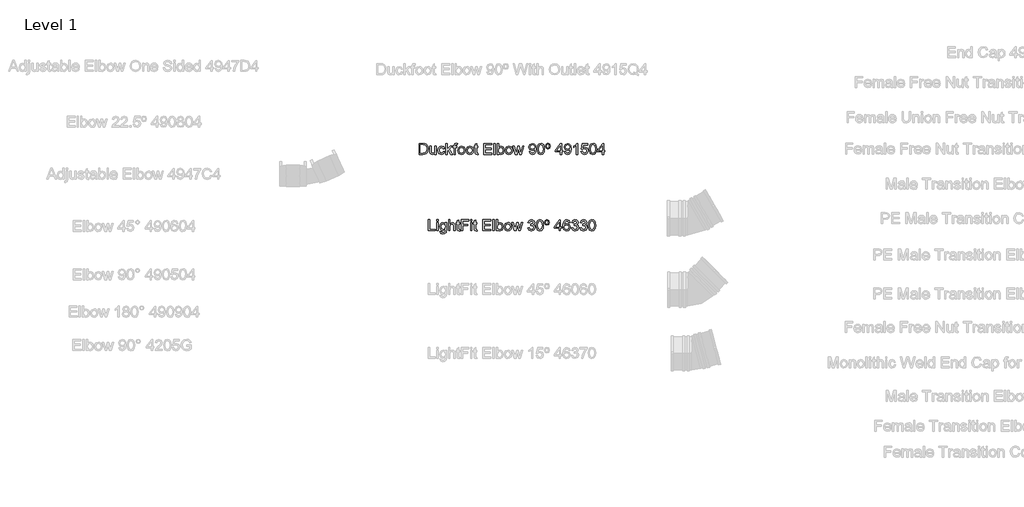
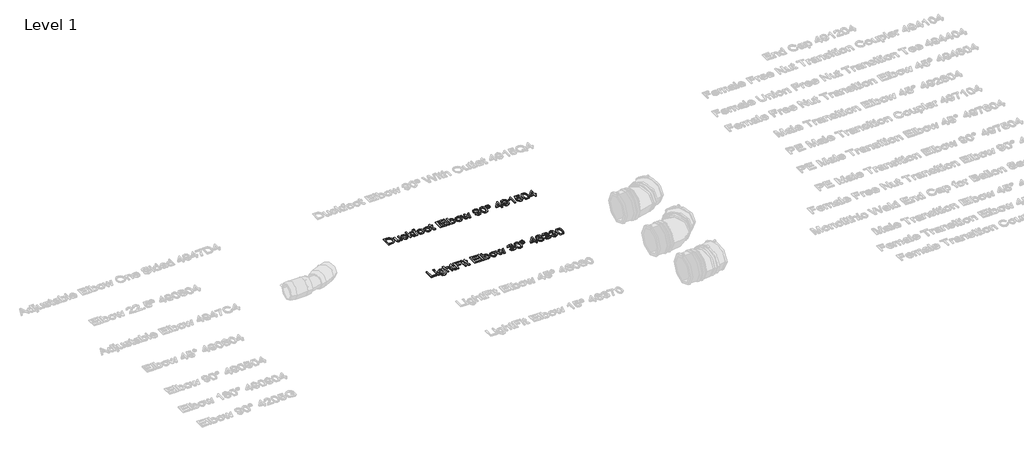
# One storey, part 19 of 41: 2 proxies.
"""IFC4 building model written with IfcOpenShell, lengths in millimetres."""

from ifc_helpers import new_model, si_unit, origin, origin_with_axes, place, context, project, spatial, polyline, outline, extrude, element, save

model = new_model("IFC4")

# Units and contexts
model_context = context("Model", 3, world=origin())
ifc_project = project(units=[si_unit("LENGTHUNIT", "METRE", prefix="MILLI")], contexts=[model_context])

# Site, building, storey
site = spatial("IfcSite", under=ifc_project)
building = spatial("IfcBuilding", under=site)
storey = spatial("IfcBuildingStorey", under=building, Name="Level 1", Elevation=0.0)

# Proxies
placement = place(None, origin())
element("IfcBuildingElementProxy", 1, Name="100 mm Arial", ObjectType="100 mm Arial", at=placement, inside=storey, context=model_context, shape_type="SweptSolid", body=[
    extrude(outline(polyline([(13189.6125419, 4561.9520671), (13189.6125419, 4621.0289902), (13209.9923496, 4621.0289902), (13220.5356188, 4620.1780287), (13229.2183111, 4615.9520671), (13236.2135034, 4605.8559133), (13238.5356188, 4591.8078364), (13236.9635034, 4579.8871633), (13232.9250419, 4571.2837979), (13227.5308111, 4565.9256248), (13220.470715, 4562.9616825), (13210.9731188, 4561.9520671), (13189.6125419, 4561.9520671)]), holes=[polyline([(13196.9971573, 4569.3366825), (13210.064465, 4569.3366825), (13219.5692727, 4570.4039902), (13225.0500419, 4573.4184133), (13229.5428304, 4580.7525479), (13231.1510034, 4591.923221), (13227.9995611, 4605.9136056), (13220.3336957, 4612.4616825), (13209.8625419, 4613.6443748), (13196.9971573, 4613.6443748), (13196.9971573, 4569.3366825)])]), origin_with_axes(), (0.0, 0.0, 1.0), 5.0),
    extrude(outline(polyline([(13275.4586957, 4561.9520671), (13275.4586957, 4569.4087979), (13269.6750419, 4563.1239421), (13262.1317727, 4561.0289902), (13255.1870611, 4562.500144), (13250.3985996, 4566.1924517), (13248.1990804, 4571.6299517), (13247.766388, 4578.4953364), (13247.766388, 4605.3366825), (13255.1510034, 4605.3366825), (13255.1510034, 4581.9712979), (13255.5981188, 4574.4424517), (13258.5187919, 4570.0217787), (13264.0211957, 4568.4136056), (13270.1870611, 4570.0578364), (13274.2615804, 4574.5362017), (13275.4586957, 4582.7645671), (13275.4586957, 4605.3366825), (13282.8433111, 4605.3366825), (13282.8433111, 4561.9520671), (13275.4586957, 4561.9520671)])), origin_with_axes(), (0.0, 0.0, 1.0), 5.0),
    extrude(outline(polyline([(13320.689465, 4577.6443748), (13328.0740804, 4576.7212979), (13322.1461957, 4565.1900479), (13310.4346573, 4561.0289902), (13302.579489, 4562.4803123), (13296.4370611, 4566.8342787), (13292.4725179, 4573.8997835), (13291.1510034, 4583.485721), (13293.408215, 4595.7525479), (13300.2880227, 4603.6347594), (13310.3336957, 4606.2597594), (13321.5620611, 4602.6539902), (13327.1510034, 4592.4136056), (13319.766388, 4591.4905287), (13316.3409073, 4597.0217787), (13310.391388, 4598.875144), (13301.8312919, 4595.2261056), (13298.5356188, 4583.687644), (13301.7591765, 4572.0410094), (13310.189465, 4568.4136056), (13317.1485996, 4570.6780287), (13320.689465, 4577.6443748)])), origin_with_axes(), (0.0, 0.0, 1.0), 5.0),
    extrude(outline(polyline([(13334.5356188, 4561.9520671), (13334.5356188, 4621.0289902), (13341.9202342, 4621.0289902), (13341.9202342, 4589.2837979), (13358.4779265, 4605.3366825), (13368.689465, 4605.3366825), (13351.9298496, 4589.0818748), (13369.6125419, 4561.9520671), (13360.9875419, 4561.9520671), (13346.6365804, 4583.9472594), (13341.9202342, 4579.375144), (13341.9202342, 4561.9520671), (13334.5356188, 4561.9520671)])), origin_with_axes(), (0.0, 0.0, 1.0), 5.0),
    extrude(outline(polyline([(13377.9202342, 4561.9520671), (13377.9202342, 4597.9520671), (13371.4586957, 4597.9520671), (13371.4586957, 4605.3366825), (13377.9202342, 4605.3366825), (13377.9202342, 4609.7068748), (13378.6990804, 4615.8655287), (13382.4779265, 4620.2645671), (13389.9202342, 4621.9520671), (13396.6558111, 4621.1443748), (13395.5740804, 4614.2212979), (13391.3192727, 4614.5674517), (13386.6678304, 4613.3414902), (13385.3048496, 4608.7693748), (13385.3048496, 4605.3366825), (13393.6125419, 4605.3366825), (13393.6125419, 4597.9520671), (13385.3048496, 4597.9520671), (13385.3048496, 4561.9520671), (13377.9202342, 4561.9520671)])), origin_with_axes(), (0.0, 0.0, 1.0), 5.0),
    extrude(outline(polyline([(13398.2279265, 4583.6443748), (13399.8252823, 4594.1047114), (13404.6173496, 4601.4568748), (13417.626965, 4606.2597594), (13425.3847775, 4604.79762), (13431.5812919, 4600.4112017), (13435.6431909, 4593.4466585), (13436.9971573, 4584.250144), (13434.6029265, 4571.110721), (13427.6293688, 4563.6756248), (13417.626965, 4561.0289902), (13409.7754025, 4562.485721), (13403.5860996, 4566.8559133), (13399.5674698, 4573.9664902), (13398.2279265, 4583.6443748)]), holes=[polyline([(13405.6125419, 4583.6587979), (13409.0308111, 4572.2140864), (13417.626965, 4568.4136056), (13426.1942727, 4572.235721), (13429.6125419, 4583.8895671), (13426.172638, 4595.0746633), (13417.626965, 4598.875144), (13409.0308111, 4595.0890864), (13405.6125419, 4583.6587979)])]), origin_with_axes(), (0.0, 0.0, 1.0), 5.0),
    extrude(outline(polyline([(13443.4586957, 4583.6443748), (13445.0560515, 4594.1047114), (13449.8481188, 4601.4568748), (13462.8577342, 4606.2597594), (13470.6155467, 4604.79762), (13476.8120611, 4600.4112017), (13480.8739602, 4593.4466585), (13482.2279265, 4584.250144), (13479.8336957, 4571.110721), (13472.860138, 4563.6756248), (13462.8577342, 4561.0289902), (13455.0061717, 4562.485721), (13448.8168688, 4566.8559133), (13444.798239, 4573.9664902), (13443.4586957, 4583.6443748)]), holes=[polyline([(13450.8433111, 4583.6587979), (13454.2615804, 4572.2140864), (13462.8577342, 4568.4136056), (13471.4250419, 4572.235721), (13474.8433111, 4583.8895671), (13471.4034073, 4595.0746633), (13462.8577342, 4598.875144), (13454.2615804, 4595.0890864), (13450.8433111, 4583.6587979)])]), origin_with_axes(), (0.0, 0.0, 1.0), 5.0),
    extrude(outline(polyline([(13506.2279265, 4568.110721), (13507.1510034, 4561.735721), (13501.626965, 4561.0289902), (13495.439465, 4562.2549517), (13492.3529265, 4565.4712979), (13491.4586957, 4573.8511056), (13491.4586957, 4597.9520671), (13485.9202342, 4597.9520671), (13485.9202342, 4605.3366825), (13491.4586957, 4605.3366825), (13491.4586957, 4615.8799517), (13498.8433111, 4620.2212979), (13498.8433111, 4605.3366825), (13506.2279265, 4605.3366825), (13506.2279265, 4597.9520671), (13498.8433111, 4597.9520671), (13498.8433111, 4574.0674517), (13499.2327342, 4570.2597594), (13500.4947534, 4568.9112017), (13503.0115804, 4568.4136056), (13506.2279265, 4568.110721)])), origin_with_axes(), (0.0, 0.0, 1.0), 5.0),
    extrude(outline(polyline([(13537.6125419, 4561.9520671), (13537.6125419, 4621.0289902), (13580.0740804, 4621.0289902), (13580.0740804, 4613.6443748), (13544.9971573, 4613.6443748), (13544.9971573, 4596.1059133), (13578.2279265, 4596.1059133), (13578.2279265, 4588.7212979), (13544.9971573, 4588.7212979), (13544.9971573, 4569.3366825), (13580.9971573, 4569.3366825), (13580.9971573, 4561.9520671), (13537.6125419, 4561.9520671)])), origin_with_axes(), (0.0, 0.0, 1.0), 5.0),
    extrude(outline(polyline([(13591.1510034, 4561.9520671), (13591.1510034, 4621.0289902), (13598.5356188, 4621.0289902), (13598.5356188, 4561.9520671), (13591.1510034, 4561.9520671)])), origin_with_axes(), (0.0, 0.0, 1.0), 5.0),
    extrude(outline(polyline([(13616.9971573, 4561.9520671), (13609.6125419, 4561.9520671), (13609.6125419, 4621.0289902), (13616.9971573, 4621.0289902), (13616.9971573, 4599.1203364), (13622.1678304, 4604.4749037), (13628.5933111, 4606.2597594), (13635.9923496, 4604.6515864), (13641.7327342, 4600.1299517), (13645.2591765, 4593.0987017), (13646.5356188, 4584.2934133), (13645.2141044, 4574.4352402), (13641.2495611, 4567.1011056), (13635.4316525, 4562.547019), (13628.5500419, 4561.0289902), (13621.9839361, 4562.9869229), (13616.9971573, 4568.860721), (13616.9971573, 4561.9520671)]), holes=[polyline([(13616.9971573, 4583.9472594), (13619.016388, 4573.6203364), (13627.9154265, 4568.4136056), (13635.8192727, 4572.250144), (13639.1510034, 4583.687644), (13635.9562919, 4595.1684133), (13628.2327342, 4598.875144), (13620.328888, 4595.0386056), (13616.9971573, 4583.9472594)])]), origin_with_axes(), (0.0, 0.0, 1.0), 5.0),
    extrude(outline(polyline([(13652.9971573, 4583.6443748), (13654.594513, 4594.1047114), (13659.3865804, 4601.4568748), (13672.3961957, 4606.2597594), (13680.1540082, 4604.79762), (13686.3505227, 4600.4112017), (13690.4124217, 4593.4466585), (13691.766388, 4584.250144), (13689.3721573, 4571.110721), (13682.3985996, 4563.6756248), (13672.3961957, 4561.0289902), (13664.5446332, 4562.485721), (13658.3553304, 4566.8559133), (13654.3367005, 4573.9664902), (13652.9971573, 4583.6443748)]), holes=[polyline([(13660.3817727, 4583.6587979), (13663.8000419, 4572.2140864), (13672.3961957, 4568.4136056), (13680.9635034, 4572.235721), (13684.3817727, 4583.8895671), (13680.9418688, 4595.0746633), (13672.3961957, 4598.875144), (13663.8000419, 4595.0890864), (13660.3817727, 4583.6587979)])]), origin_with_axes(), (0.0, 0.0, 1.0), 5.0),
    extrude(outline(polyline([(13707.2711957, 4561.9520671), (13694.0740804, 4605.3366825), (13701.7471573, 4605.3366825), (13709.2327342, 4580.0241825), (13711.4683111, 4570.9809133), (13713.3000419, 4579.6924517), (13719.2567727, 4605.3366825), (13728.0548496, 4605.3366825), (13733.9827342, 4579.7645671), (13735.6125419, 4571.875144), (13737.9490804, 4580.1972594), (13745.4490804, 4605.3366825), (13753.1510034, 4605.3366825), (13739.8529265, 4561.9520671), (13730.9250419, 4561.9520671), (13725.2567727, 4587.3943748), (13723.6125419, 4595.3270671), (13716.3000419, 4561.9520671), (13707.2711957, 4561.9520671)])), origin_with_axes(), (0.0, 0.0, 1.0), 5.0),
    extrude(outline(polyline([(13780.3817727, 4576.7212979), (13787.766388, 4577.6443748), (13791.0836957, 4570.5987017), (13797.3721573, 4568.4136056), (13803.3505227, 4569.8198556), (13807.4034073, 4573.5770671), (13809.8192727, 4579.9953364), (13810.8865804, 4588.562644), (13804.9370611, 4584.4087979), (13796.8385034, 4582.2597594), (13784.4995611, 4587.5097594), (13779.4586957, 4601.3414902), (13784.7447534, 4615.6203364), (13797.9923496, 4621.0289902), (13808.5139842, 4617.9424517), (13815.7543688, 4609.1443748), (13818.2279265, 4592.6155287), (13815.7615804, 4574.6804325), (13808.4274457, 4564.5193748), (13797.0260034, 4561.0289902), (13785.6750419, 4565.1467787), (13780.3817727, 4576.7212979)]), holes=[polyline([(13810.8433111, 4601.5145671), (13807.6558111, 4610.3703364), (13799.189465, 4613.6443748), (13790.3048496, 4610.1179325), (13786.8433111, 4600.9809133), (13790.1173496, 4592.7958171), (13798.9875419, 4589.6443748), (13807.5043688, 4592.7958171), (13810.8433111, 4601.5145671)])]), origin_with_axes(), (0.0, 0.0, 1.0), 5.0),
    extrude(outline(polyline([(13824.689465, 4591.0145671), (13826.860138, 4608.0121633), (13833.3072534, 4617.812644), (13844.0740804, 4621.0289902), (13852.6990804, 4619.125144), (13858.6558111, 4613.6371633), (13862.1173496, 4604.8967787), (13863.4586957, 4591.0145671), (13861.3096573, 4574.0890864), (13854.8841765, 4564.266971), (13844.0740804, 4561.0289902), (13836.4010034, 4562.4352402), (13830.5740804, 4566.6539902), (13826.1606188, 4576.6455767), (13824.689465, 4591.0145671)]), holes=[polyline([(13832.0740804, 4591.0289902), (13835.5356188, 4572.6900479), (13844.0740804, 4568.4136056), (13852.6125419, 4572.704471), (13856.0740804, 4591.0289902), (13852.7279265, 4609.1587979), (13843.9875419, 4613.6443748), (13835.6510034, 4609.6924517), (13832.0740804, 4591.0289902)])]), origin_with_axes(), (0.0, 0.0, 1.0), 5.0),
    extrude(outline(polyline([(13881.4586957, 4621.9520671), (13891.1077342, 4617.8991825), (13894.8433111, 4606.7068748), (13891.0860996, 4595.5434133), (13881.501965, 4591.4905287), (13871.8312919, 4595.4640864), (13868.0740804, 4606.5337979), (13871.8096573, 4617.8991825), (13881.4586957, 4621.9520671)]), holes=[polyline([(13881.4586957, 4616.4136056), (13877.110138, 4614.141971), (13875.4586957, 4606.7212979), (13877.1389842, 4599.3655287), (13881.4586957, 4597.0289902), (13885.7928304, 4599.3655287), (13887.4586957, 4606.923221), (13885.7784073, 4614.0987017), (13881.4586957, 4616.4136056)])]), origin_with_axes(), (0.0, 0.0, 1.0), 5.0),
    extrude(outline(polyline([(13947.4586957, 4561.9520671), (13947.4586957, 4575.798221), (13920.689465, 4575.798221), (13920.689465, 4583.1828364), (13949.3048496, 4620.1059133), (13954.8433111, 4620.1059133), (13954.8433111, 4583.1828364), (13962.2279265, 4583.1828364), (13962.2279265, 4575.798221), (13954.8433111, 4575.798221), (13954.8433111, 4561.9520671), (13947.4586957, 4561.9520671)]), holes=[polyline([(13947.4586957, 4583.1828364), (13947.4586957, 4606.000144), (13929.7760034, 4583.1828364), (13947.4586957, 4583.1828364)])]), origin_with_axes(), (0.0, 0.0, 1.0), 5.0),
    extrude(outline(polyline([(13969.6125419, 4576.7212979), (13976.9971573, 4577.6443748), (13980.314465, 4570.5987017), (13986.6029265, 4568.4136056), (13992.5812919, 4569.8198556), (13996.6341765, 4573.5770671), (13999.0500419, 4579.9953364), (14000.1173496, 4588.562644), (13994.1678304, 4584.4087979), (13986.0692727, 4582.2597594), (13973.7303304, 4587.5097594), (13968.689465, 4601.3414902), (13973.9755227, 4615.6203364), (13987.2231188, 4621.0289902), (13997.7447534, 4617.9424517), (14004.985138, 4609.1443748), (14007.4586957, 4592.6155287), (14004.9923496, 4574.6804325), (13997.658215, 4564.5193748), (13986.2567727, 4561.0289902), (13974.9058111, 4565.1467787), (13969.6125419, 4576.7212979)]), holes=[polyline([(14000.0740804, 4601.5145671), (13996.8865804, 4610.3703364), (13988.4202342, 4613.6443748), (13979.5356188, 4610.1179325), (13976.0740804, 4600.9809133), (13979.3481188, 4592.7958171), (13988.2183111, 4589.6443748), (13996.735138, 4592.7958171), (14000.0740804, 4601.5145671)])]), origin_with_axes(), (0.0, 0.0, 1.0), 5.0),
    extrude(outline(polyline([(14041.6125419, 4561.9520671), (14034.2279265, 4561.9520671), (14034.2279265, 4607.9905287), (14027.2327342, 4603.0073556), (14019.4586957, 4599.2789902), (14019.4586957, 4606.2597594), (14030.283215, 4613.1684133), (14036.8529265, 4621.0289902), (14041.6125419, 4621.0289902), (14041.6125419, 4561.9520671)])), origin_with_axes(), (0.0, 0.0, 1.0), 5.0),
    extrude(outline(polyline([(14059.1510034, 4577.6443748), (14066.5356188, 4578.5674517), (14070.2567727, 4570.9592787), (14077.9731188, 4568.4136056), (14087.2327342, 4571.954471), (14090.5356188, 4581.3511056), (14087.4418688, 4590.1203364), (14078.0885034, 4593.3366825), (14071.6053304, 4592.0530287), (14067.4586957, 4588.7212979), (14060.0740804, 4589.6443748), (14066.5356188, 4620.1059133), (14095.1510034, 4620.1059133), (14095.1510034, 4612.7212979), (14072.5067727, 4612.7212979), (14069.3481188, 4596.4520671), (14080.1510034, 4600.7212979), (14092.7784073, 4595.4280287), (14097.9202342, 4581.812644), (14093.2904265, 4568.110721), (14086.641388, 4562.7994229), (14077.9442727, 4561.0289902), (14064.9130227, 4565.579471), (14059.1510034, 4577.6443748)])), origin_with_axes(), (0.0, 0.0, 1.0), 5.0),
    extrude(outline(polyline([(14104.3817727, 4591.0145671), (14106.5524457, 4608.0121633), (14112.9995611, 4617.812644), (14123.766388, 4621.0289902), (14132.391388, 4619.125144), (14138.3481188, 4613.6371633), (14141.8096573, 4604.8967787), (14143.1510034, 4591.0145671), (14141.001965, 4574.0890864), (14134.5764842, 4564.266971), (14123.766388, 4561.0289902), (14116.0933111, 4562.4352402), (14110.266388, 4566.6539902), (14105.8529265, 4576.6455767), (14104.3817727, 4591.0145671)]), holes=[polyline([(14111.766388, 4591.0289902), (14115.2279265, 4572.6900479), (14123.766388, 4568.4136056), (14132.3048496, 4572.704471), (14135.766388, 4591.0289902), (14132.4202342, 4609.1587979), (14123.6798496, 4613.6443748), (14115.3433111, 4609.6924517), (14111.766388, 4591.0289902)])]), origin_with_axes(), (0.0, 0.0, 1.0), 5.0),
    extrude(outline(polyline([(14173.6125419, 4561.9520671), (14173.6125419, 4575.798221), (14146.8433111, 4575.798221), (14146.8433111, 4583.1828364), (14175.4586957, 4620.1059133), (14180.9971573, 4620.1059133), (14180.9971573, 4583.1828364), (14188.3817727, 4583.1828364), (14188.3817727, 4575.798221), (14180.9971573, 4575.798221), (14180.9971573, 4561.9520671), (14173.6125419, 4561.9520671)]), holes=[polyline([(14173.6125419, 4583.1828364), (14173.6125419, 4606.000144), (14155.9298496, 4583.1828364), (14173.6125419, 4583.1828364)])]), origin_with_axes(), (0.0, 0.0, 1.0), 5.0),
])
element("IfcBuildingElementProxy", 2, Name="100 mm Arial", ObjectType="100 mm Arial", at=placement, inside=storey, context=model_context, shape_type="SweptSolid", body=[
    extrude(outline(polyline([(13240.3817727, 4151.5291703), (13240.3817727, 4210.6060934), (13247.766388, 4210.6060934), (13247.766388, 4158.9137857), (13277.3048496, 4158.9137857), (13277.3048496, 4151.5291703), (13240.3817727, 4151.5291703)])), origin_with_axes(), (0.0, 0.0, 1.0), 5.0),
    extrude(outline(polyline([(13284.689465, 4203.221478), (13284.689465, 4210.6060934), (13292.0740804, 4210.6060934), (13292.0740804, 4203.221478), (13284.689465, 4203.221478)])), origin_with_axes(), (0.0, 0.0, 1.0), 5.0),
    extrude(outline(polyline([(13284.689465, 4151.5291703), (13284.689465, 4194.9137857), (13292.0740804, 4194.9137857), (13292.0740804, 4151.5291703), (13284.689465, 4151.5291703)])), origin_with_axes(), (0.0, 0.0, 1.0), 5.0),
    extrude(outline(polyline([(13301.3048496, 4147.8368626), (13308.689465, 4146.9137857), (13311.0836957, 4143.0195549), (13318.251965, 4141.3753242), (13325.8096573, 4143.2359011), (13329.4154265, 4148.4570549), (13329.9202342, 4157.0676319), (13318.3817727, 4151.5291703), (13310.7681909, 4153.1409492), (13305.0909073, 4157.9762857), (13300.3817727, 4173.4378242), (13302.4947534, 4184.8825357), (13308.610138, 4192.9810934), (13318.0211957, 4195.8368626), (13324.6089361, 4194.221478), (13329.9202342, 4189.3753242), (13329.9202342, 4194.9137857), (13337.3048496, 4194.9137857), (13337.3048496, 4157.4570549), (13335.2856188, 4143.1133049), (13328.8889842, 4136.4426319), (13318.1077342, 4133.9907088), (13305.8264842, 4137.4450357), (13301.3048496, 4147.8368626)]), holes=[polyline([(13307.766388, 4173.9426319), (13310.9178304, 4162.5123434), (13318.828888, 4158.9137857), (13326.7255227, 4162.4907088), (13329.9202342, 4173.7262857), (13326.6317727, 4184.7383049), (13318.7135034, 4188.4522472), (13310.9610996, 4184.7959972), (13307.766388, 4173.9426319)])]), origin_with_axes(), (0.0, 0.0, 1.0), 5.0),
    extrude(outline(polyline([(13348.3817727, 4151.5291703), (13348.3817727, 4210.6060934), (13355.766388, 4210.6060934), (13355.766388, 4188.8849395), (13361.5248015, 4194.0988819), (13368.6173496, 4195.8368626), (13376.9106188, 4193.940228), (13381.9442727, 4188.6974395), (13383.4586957, 4178.9907088), (13383.4586957, 4151.5291703), (13376.0740804, 4151.5291703), (13376.0740804, 4178.2262857), (13373.7231188, 4186.0147472), (13367.0596573, 4188.4522472), (13361.0091765, 4186.8080165), (13356.970715, 4182.3512857), (13355.766388, 4174.5772472), (13355.766388, 4151.5291703), (13348.3817727, 4151.5291703)])), origin_with_axes(), (0.0, 0.0, 1.0), 5.0),
    extrude(outline(polyline([(13409.3048496, 4157.6878242), (13410.2279265, 4151.3128242), (13404.703888, 4150.6060934), (13398.516388, 4151.8320549), (13395.4298496, 4155.0484011), (13394.5356188, 4163.4282088), (13394.5356188, 4187.5291703), (13388.9971573, 4187.5291703), (13388.9971573, 4194.9137857), (13394.5356188, 4194.9137857), (13394.5356188, 4205.4570549), (13401.9202342, 4209.7984011), (13401.9202342, 4194.9137857), (13409.3048496, 4194.9137857), (13409.3048496, 4187.5291703), (13401.9202342, 4187.5291703), (13401.9202342, 4163.6445549), (13402.3096573, 4159.8368626), (13403.5716765, 4158.4883049), (13406.0885034, 4157.9907088), (13409.3048496, 4157.6878242)])), origin_with_axes(), (0.0, 0.0, 1.0), 5.0),
    extrude(outline(polyline([(13417.6125419, 4151.5291703), (13417.6125419, 4210.6060934), (13457.3048496, 4210.6060934), (13457.3048496, 4203.221478), (13424.9971573, 4203.221478), (13424.9971573, 4185.6830165), (13452.689465, 4185.6830165), (13452.689465, 4178.2984011), (13424.9971573, 4178.2984011), (13424.9971573, 4151.5291703), (13417.6125419, 4151.5291703)])), origin_with_axes(), (0.0, 0.0, 1.0), 5.0),
    extrude(outline(polyline([(13466.5356188, 4151.5291703), (13466.5356188, 4194.9137857), (13473.9202342, 4194.9137857), (13473.9202342, 4151.5291703), (13466.5356188, 4151.5291703)])), origin_with_axes(), (0.0, 0.0, 1.0), 5.0),
    extrude(outline(polyline([(13466.5356188, 4203.221478), (13466.5356188, 4210.6060934), (13473.9202342, 4210.6060934), (13473.9202342, 4203.221478), (13466.5356188, 4203.221478)])), origin_with_axes(), (0.0, 0.0, 1.0), 5.0),
    extrude(outline(polyline([(13500.689465, 4157.6878242), (13501.6125419, 4151.3128242), (13496.0885034, 4150.6060934), (13489.9010034, 4151.8320549), (13486.814465, 4155.0484011), (13485.9202342, 4163.4282088), (13485.9202342, 4187.5291703), (13480.3817727, 4187.5291703), (13480.3817727, 4194.9137857), (13485.9202342, 4194.9137857), (13485.9202342, 4205.4570549), (13493.3048496, 4209.7984011), (13493.3048496, 4194.9137857), (13500.689465, 4194.9137857), (13500.689465, 4187.5291703), (13493.3048496, 4187.5291703), (13493.3048496, 4163.6445549), (13493.6942727, 4159.8368626), (13494.9562919, 4158.4883049), (13497.4731188, 4157.9907088), (13500.689465, 4157.6878242)])), origin_with_axes(), (0.0, 0.0, 1.0), 5.0),
    extrude(outline(polyline([(13532.0740804, 4151.5291703), (13532.0740804, 4210.6060934), (13574.5356188, 4210.6060934), (13574.5356188, 4203.221478), (13539.4586957, 4203.221478), (13539.4586957, 4185.6830165), (13572.689465, 4185.6830165), (13572.689465, 4178.2984011), (13539.4586957, 4178.2984011), (13539.4586957, 4158.9137857), (13575.4586957, 4158.9137857), (13575.4586957, 4151.5291703), (13532.0740804, 4151.5291703)])), origin_with_axes(), (0.0, 0.0, 1.0), 5.0),
    extrude(outline(polyline([(13585.6125419, 4151.5291703), (13585.6125419, 4210.6060934), (13592.9971573, 4210.6060934), (13592.9971573, 4151.5291703), (13585.6125419, 4151.5291703)])), origin_with_axes(), (0.0, 0.0, 1.0), 5.0),
    extrude(outline(polyline([(13611.4586957, 4151.5291703), (13604.0740804, 4151.5291703), (13604.0740804, 4210.6060934), (13611.4586957, 4210.6060934), (13611.4586957, 4188.6974395), (13616.6293688, 4194.0520069), (13623.0548496, 4195.8368626), (13630.453888, 4194.2286895), (13636.1942727, 4189.7070549), (13639.720715, 4182.6758049), (13640.9971573, 4173.8705165), (13639.6756429, 4164.0123434), (13635.7110996, 4156.6782088), (13629.8931909, 4152.1241222), (13623.0115804, 4150.6060934), (13616.4454746, 4152.5640261), (13611.4586957, 4158.4378242), (13611.4586957, 4151.5291703)]), holes=[polyline([(13611.4586957, 4173.5243626), (13613.4779265, 4163.1974395), (13622.376965, 4157.9907088), (13630.2808111, 4161.8272472), (13633.6125419, 4173.2647472), (13630.4178304, 4184.7455165), (13622.6942727, 4188.4522472), (13614.7904265, 4184.6157088), (13611.4586957, 4173.5243626)])]), origin_with_axes(), (0.0, 0.0, 1.0), 5.0),
    extrude(outline(polyline([(13647.4586957, 4173.221478), (13649.0560515, 4183.6818145), (13653.8481188, 4191.033978), (13666.8577342, 4195.8368626), (13674.6155467, 4194.3747232), (13680.8120611, 4189.9883049), (13684.8739602, 4183.0237617), (13686.2279265, 4173.8272472), (13683.8336957, 4160.6878242), (13676.860138, 4153.252728), (13666.8577342, 4150.6060934), (13659.0061717, 4152.0628242), (13652.8168688, 4156.4330165), (13648.798239, 4163.5435934), (13647.4586957, 4173.221478)]), holes=[polyline([(13654.8433111, 4173.2359011), (13658.2615804, 4161.7911895), (13666.8577342, 4157.9907088), (13675.4250419, 4161.8128242), (13678.8433111, 4173.4666703), (13675.4034073, 4184.6517665), (13666.8577342, 4188.4522472), (13658.2615804, 4184.6661895), (13654.8433111, 4173.2359011)])]), origin_with_axes(), (0.0, 0.0, 1.0), 5.0),
    extrude(outline(polyline([(13701.7327342, 4151.5291703), (13688.5356188, 4194.9137857), (13696.2086957, 4194.9137857), (13703.6942727, 4169.6012857), (13705.9298496, 4160.5580165), (13707.7615804, 4169.2695549), (13713.7183111, 4194.9137857), (13722.516388, 4194.9137857), (13728.4442727, 4169.3416703), (13730.0740804, 4161.4522472), (13732.4106188, 4169.7743626), (13739.9106188, 4194.9137857), (13747.6125419, 4194.9137857), (13734.314465, 4151.5291703), (13725.3865804, 4151.5291703), (13719.7183111, 4176.971478), (13718.0740804, 4184.9041703), (13710.7615804, 4151.5291703), (13701.7327342, 4151.5291703)])), origin_with_axes(), (0.0, 0.0, 1.0), 5.0),
    extrude(outline(polyline([(13773.9202342, 4167.221478), (13781.3048496, 4168.1445549), (13785.3793688, 4160.3705165), (13793.001965, 4157.9907088), (13801.9731188, 4161.2647472), (13805.3048496, 4169.3705165), (13802.001965, 4177.0075357), (13793.6077342, 4180.0291703), (13788.4298496, 4179.221478), (13789.251965, 4186.6060934), (13798.814465, 4188.6397472), (13802.5356188, 4195.158978), (13799.8385034, 4200.9354203), (13792.8865804, 4203.221478), (13785.8481188, 4200.9137857), (13782.2279265, 4193.9907088), (13774.8433111, 4194.9137857), (13780.8865804, 4206.4955165), (13792.626965, 4210.6060934), (13801.533215, 4208.5796511), (13807.7639842, 4203.0411895), (13809.9202342, 4195.5916703), (13807.8721573, 4188.783978), (13801.814465, 4183.8945549), (13809.8625419, 4178.846478), (13812.689465, 4169.2407088), (13807.0356188, 4156.0291703), (13792.7423496, 4150.6060934), (13779.7904265, 4155.2359011), (13773.9202342, 4167.221478)])), origin_with_axes(), (0.0, 0.0, 1.0), 5.0),
    extrude(outline(polyline([(13819.1510034, 4180.5916703), (13821.3216765, 4197.5892665), (13827.7687919, 4207.3897472), (13838.5356188, 4210.6060934), (13847.1606188, 4208.7022472), (13853.1173496, 4203.2142665), (13856.578888, 4194.4738819), (13857.9202342, 4180.5916703), (13855.7711957, 4163.6661895), (13849.345715, 4153.8440742), (13838.5356188, 4150.6060934), (13830.8625419, 4152.0123434), (13825.0356188, 4156.2310934), (13820.6221573, 4166.2226799), (13819.1510034, 4180.5916703)]), holes=[polyline([(13826.5356188, 4180.6060934), (13829.9971573, 4162.2671511), (13838.5356188, 4157.9907088), (13847.0740804, 4162.2815742), (13850.5356188, 4180.6060934), (13847.189465, 4198.7359011), (13838.4490804, 4203.221478), (13830.1125419, 4199.2695549), (13826.5356188, 4180.6060934)])]), origin_with_axes(), (0.0, 0.0, 1.0), 5.0),
    extrude(outline(polyline([(13875.9202342, 4211.5291703), (13885.5692727, 4207.4762857), (13889.3048496, 4196.283978), (13885.547638, 4185.1205165), (13875.9635034, 4181.0676319), (13866.2928304, 4185.0411895), (13862.5356188, 4196.1109011), (13866.2711957, 4207.4762857), (13875.9202342, 4211.5291703)]), holes=[polyline([(13875.9202342, 4205.9907088), (13871.5716765, 4203.7190742), (13869.9202342, 4196.2984011), (13871.6005227, 4188.9426319), (13875.9202342, 4186.6060934), (13880.2543688, 4188.9426319), (13881.9202342, 4196.5003242), (13880.2399457, 4203.6758049), (13875.9202342, 4205.9907088)])]), origin_with_axes(), (0.0, 0.0, 1.0), 5.0),
    extrude(outline(polyline([(13941.9202342, 4151.5291703), (13941.9202342, 4165.3753242), (13915.1510034, 4165.3753242), (13915.1510034, 4172.7599395), (13943.766388, 4209.6830165), (13949.3048496, 4209.6830165), (13949.3048496, 4172.7599395), (13956.689465, 4172.7599395), (13956.689465, 4165.3753242), (13949.3048496, 4165.3753242), (13949.3048496, 4151.5291703), (13941.9202342, 4151.5291703)]), holes=[polyline([(13941.9202342, 4172.7599395), (13941.9202342, 4195.5772472), (13924.2375419, 4172.7599395), (13941.9202342, 4172.7599395)])]), origin_with_axes(), (0.0, 0.0, 1.0), 5.0),
    extrude(outline(polyline([(14000.9971573, 4194.9137857), (13993.6125419, 4193.9907088), (13990.814465, 4200.1493626), (13983.4154265, 4203.221478), (13976.751965, 4201.4330165), (13971.7110996, 4194.7190742), (13969.6125419, 4181.5580165), (13976.1245611, 4187.4498434), (13984.1942727, 4189.3753242), (13996.7423496, 4184.1109011), (14001.9202342, 4170.5099395), (13999.4827342, 4160.3200357), (13992.7760034, 4153.1084972), (13983.0981188, 4150.6060934), (13974.720114, 4152.2647472), (13968.047638, 4157.2407088), (13963.6828544, 4166.0243626), (13962.2279265, 4179.1060934), (13963.8433111, 4193.8140261), (13968.689465, 4203.8705165), (13975.3060515, 4208.9221992), (13983.876965, 4210.6060934), (13995.5452342, 4206.4378242), (14000.9971573, 4194.9137857)]), holes=[polyline([(13969.6125419, 4170.6253242), (13971.3216765, 4164.2286895), (13975.8649457, 4159.5844588), (13982.5211957, 4157.9907088), (13991.2255227, 4161.2935934), (13994.5356188, 4170.2647472), (13991.2687919, 4178.8536895), (13982.2183111, 4181.9907088), (13973.283215, 4178.8536895), (13969.6125419, 4170.6253242)])]), origin_with_axes(), (0.0, 0.0, 1.0), 5.0),
    extrude(outline(polyline([(14008.3817727, 4167.221478), (14015.766388, 4168.1445549), (14019.8409073, 4160.3705165), (14027.4635034, 4157.9907088), (14036.4346573, 4161.2647472), (14039.766388, 4169.3705165), (14036.4635034, 4177.0075357), (14028.0692727, 4180.0291703), (14022.891388, 4179.221478), (14023.7135034, 4186.6060934), (14033.2760034, 4188.6397472), (14036.9971573, 4195.158978), (14034.3000419, 4200.9354203), (14027.3481188, 4203.221478), (14020.3096573, 4200.9137857), (14016.689465, 4193.9907088), (14009.3048496, 4194.9137857), (14015.3481188, 4206.4955165), (14027.0885034, 4210.6060934), (14035.9947534, 4208.5796511), (14042.2255227, 4203.0411895), (14044.3817727, 4195.5916703), (14042.3336957, 4188.783978), (14036.2760034, 4183.8945549), (14044.3240804, 4178.846478), (14047.1510034, 4169.2407088), (14041.4971573, 4156.0291703), (14027.203888, 4150.6060934), (14014.251965, 4155.2359011), (14008.3817727, 4167.221478)])), origin_with_axes(), (0.0, 0.0, 1.0), 5.0),
    extrude(outline(polyline([(14053.6125419, 4167.221478), (14060.9971573, 4168.1445549), (14065.0716765, 4160.3705165), (14072.6942727, 4157.9907088), (14081.6654265, 4161.2647472), (14084.9971573, 4169.3705165), (14081.6942727, 4177.0075357), (14073.3000419, 4180.0291703), (14068.1221573, 4179.221478), (14068.9442727, 4186.6060934), (14078.5067727, 4188.6397472), (14082.2279265, 4195.158978), (14079.5308111, 4200.9354203), (14072.578888, 4203.221478), (14065.5404265, 4200.9137857), (14061.9202342, 4193.9907088), (14054.5356188, 4194.9137857), (14060.578888, 4206.4955165), (14072.3192727, 4210.6060934), (14081.2255227, 4208.5796511), (14087.4562919, 4203.0411895), (14089.6125419, 4195.5916703), (14087.564465, 4188.783978), (14081.5067727, 4183.8945549), (14089.5548496, 4178.846478), (14092.3817727, 4169.2407088), (14086.7279265, 4156.0291703), (14072.4346573, 4150.6060934), (14059.4827342, 4155.2359011), (14053.6125419, 4167.221478)])), origin_with_axes(), (0.0, 0.0, 1.0), 5.0),
    extrude(outline(polyline([(14098.8433111, 4180.5916703), (14101.0139842, 4197.5892665), (14107.4610996, 4207.3897472), (14118.2279265, 4210.6060934), (14126.8529265, 4208.7022472), (14132.8096573, 4203.2142665), (14136.2711957, 4194.4738819), (14137.6125419, 4180.5916703), (14135.4635034, 4163.6661895), (14129.0380227, 4153.8440742), (14118.2279265, 4150.6060934), (14110.5548496, 4152.0123434), (14104.7279265, 4156.2310934), (14100.314465, 4166.2226799), (14098.8433111, 4180.5916703)]), holes=[polyline([(14106.2279265, 4180.6060934), (14109.689465, 4162.2671511), (14118.2279265, 4157.9907088), (14126.766388, 4162.2815742), (14130.2279265, 4180.6060934), (14126.8817727, 4198.7359011), (14118.141388, 4203.221478), (14109.8048496, 4199.2695549), (14106.2279265, 4180.6060934)])]), origin_with_axes(), (0.0, 0.0, 1.0), 5.0),
])

save(model, "model.ifc")
